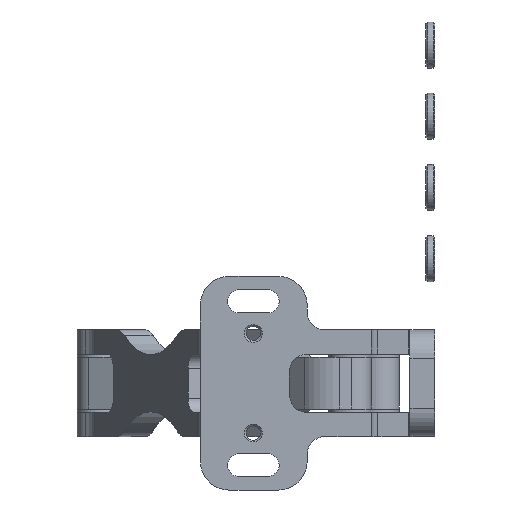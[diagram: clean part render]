
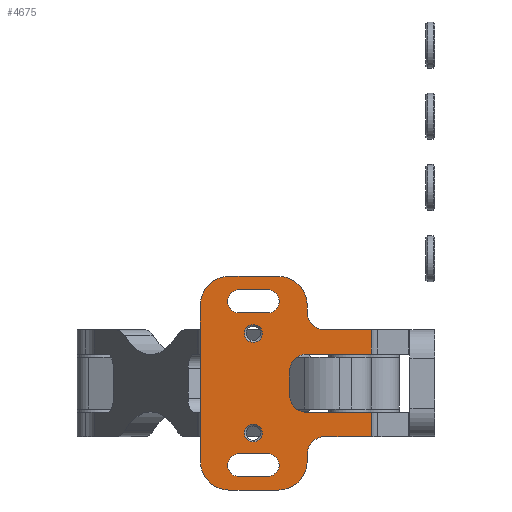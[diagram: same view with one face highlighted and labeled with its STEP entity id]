
A CAD part, front view. The second image highlights one B-rep face of the part: STEP entity #4675.
In plain terms, the highlighted planar face has unit normal (0, -1, 0).
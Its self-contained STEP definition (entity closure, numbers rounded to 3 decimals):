
#105=LINE('',#8855,#432);
#110=LINE('',#8866,#437);
#117=LINE('',#8892,#444);
#120=LINE('',#8904,#447);
#121=LINE('',#8908,#448);
#122=LINE('',#8912,#449);
#123=LINE('',#8916,#450);
#124=LINE('',#8919,#451);
#125=LINE('',#8923,#452);
#126=LINE('',#8925,#453);
#127=LINE('',#8927,#454);
#128=LINE('',#8931,#455);
#129=LINE('',#8935,#456);
#130=LINE('',#8937,#457);
#131=LINE('',#8939,#458);
#132=LINE('',#8943,#459);
#432=VECTOR('',#7369,1000.);
#437=VECTOR('',#7376,1000.);
#444=VECTOR('',#7403,1000.);
#447=VECTOR('',#7414,1000.);
#448=VECTOR('',#7417,1000.);
#449=VECTOR('',#7420,1000.);
#450=VECTOR('',#7423,1000.);
#451=VECTOR('',#7426,1000.);
#452=VECTOR('',#7429,1000.);
#453=VECTOR('',#7430,1000.);
#454=VECTOR('',#7431,1000.);
#455=VECTOR('',#7434,1000.);
#456=VECTOR('',#7437,1000.);
#457=VECTOR('',#7438,1000.);
#458=VECTOR('',#7439,1000.);
#459=VECTOR('',#7442,1000.);
#1277=ORIENTED_EDGE('',*,*,#2384,.T.);
#1278=ORIENTED_EDGE('',*,*,#2385,.T.);
#1279=ORIENTED_EDGE('',*,*,#2386,.F.);
#1280=ORIENTED_EDGE('',*,*,#2387,.F.);
#1281=ORIENTED_EDGE('',*,*,#2388,.F.);
#1282=ORIENTED_EDGE('',*,*,#2389,.F.);
#1283=ORIENTED_EDGE('',*,*,#2390,.F.);
#1284=ORIENTED_EDGE('',*,*,#2391,.F.);
#1285=ORIENTED_EDGE('',*,*,#2392,.F.);
#1286=ORIENTED_EDGE('',*,*,#2393,.F.);
#1287=ORIENTED_EDGE('',*,*,#2374,.T.);
#1288=ORIENTED_EDGE('',*,*,#2381,.T.);
#1289=ORIENTED_EDGE('',*,*,#2371,.T.);
#1290=ORIENTED_EDGE('',*,*,#2368,.T.);
#1291=ORIENTED_EDGE('',*,*,#2394,.T.);
#1292=ORIENTED_EDGE('',*,*,#2395,.T.);
#1293=ORIENTED_EDGE('',*,*,#2396,.F.);
#1294=ORIENTED_EDGE('',*,*,#2397,.T.);
#1295=ORIENTED_EDGE('',*,*,#2398,.F.);
#1296=ORIENTED_EDGE('',*,*,#2399,.T.);
#1297=ORIENTED_EDGE('',*,*,#2400,.F.);
#1298=ORIENTED_EDGE('',*,*,#2401,.T.);
#1299=ORIENTED_EDGE('',*,*,#2402,.F.);
#1300=ORIENTED_EDGE('',*,*,#2403,.T.);
#1301=ORIENTED_EDGE('',*,*,#2404,.F.);
#1302=ORIENTED_EDGE('',*,*,#2405,.T.);
#1303=ORIENTED_EDGE('',*,*,#2406,.F.);
#1304=ORIENTED_EDGE('',*,*,#2407,.T.);
#1305=ORIENTED_EDGE('',*,*,#2408,.T.);
#1306=ORIENTED_EDGE('',*,*,#2363,.F.);
#2363=EDGE_CURVE('',#2962,#2963,#105,.T.);
#2368=EDGE_CURVE('',#2965,#2967,#110,.T.);
#2371=EDGE_CURVE('',#2969,#2965,#3397,.T.);
#2374=EDGE_CURVE('',#2962,#2971,#3399,.T.);
#2381=EDGE_CURVE('',#2971,#2969,#117,.T.);
#2384=EDGE_CURVE('',#2978,#2978,#3402,.T.);
#2385=EDGE_CURVE('',#2979,#2979,#3403,.T.);
#2386=EDGE_CURVE('',#2980,#2981,#3404,.T.);
#2387=EDGE_CURVE('',#2982,#2980,#120,.T.);
#2388=EDGE_CURVE('',#2983,#2982,#3405,.T.);
#2389=EDGE_CURVE('',#2981,#2983,#121,.T.);
#2390=EDGE_CURVE('',#2984,#2985,#3406,.T.);
#2391=EDGE_CURVE('',#2986,#2984,#122,.T.);
#2392=EDGE_CURVE('',#2987,#2986,#3407,.T.);
#2393=EDGE_CURVE('',#2985,#2987,#123,.T.);
#2394=EDGE_CURVE('',#2967,#2988,#3408,.T.);
#2395=EDGE_CURVE('',#2988,#2989,#124,.T.);
#2396=EDGE_CURVE('',#2990,#2989,#3409,.T.);
#2397=EDGE_CURVE('',#2990,#2991,#125,.T.);
#2398=EDGE_CURVE('',#2992,#2991,#126,.T.);
#2399=EDGE_CURVE('',#2992,#2993,#127,.T.);
#2400=EDGE_CURVE('',#2994,#2993,#3410,.T.);
#2401=EDGE_CURVE('',#2994,#2995,#128,.T.);
#2402=EDGE_CURVE('',#2996,#2995,#3411,.T.);
#2403=EDGE_CURVE('',#2996,#2997,#129,.T.);
#2404=EDGE_CURVE('',#2998,#2997,#130,.T.);
#2405=EDGE_CURVE('',#2998,#2999,#131,.T.);
#2406=EDGE_CURVE('',#3000,#2999,#3412,.T.);
#2407=EDGE_CURVE('',#3000,#3001,#132,.T.);
#2408=EDGE_CURVE('',#3001,#2963,#3413,.T.);
#2962=VERTEX_POINT('',#8854);
#2963=VERTEX_POINT('',#8856);
#2965=VERTEX_POINT('',#8861);
#2967=VERTEX_POINT('',#8865);
#2969=VERTEX_POINT('',#8870);
#2971=VERTEX_POINT('',#8877);
#2978=VERTEX_POINT('',#8898);
#2979=VERTEX_POINT('',#8900);
#2980=VERTEX_POINT('',#8902);
#2981=VERTEX_POINT('',#8903);
#2982=VERTEX_POINT('',#8905);
#2983=VERTEX_POINT('',#8907);
#2984=VERTEX_POINT('',#8910);
#2985=VERTEX_POINT('',#8911);
#2986=VERTEX_POINT('',#8913);
#2987=VERTEX_POINT('',#8915);
#2988=VERTEX_POINT('',#8918);
#2989=VERTEX_POINT('',#8920);
#2990=VERTEX_POINT('',#8922);
#2991=VERTEX_POINT('',#8924);
#2992=VERTEX_POINT('',#8926);
#2993=VERTEX_POINT('',#8928);
#2994=VERTEX_POINT('',#8930);
#2995=VERTEX_POINT('',#8932);
#2996=VERTEX_POINT('',#8934);
#2997=VERTEX_POINT('',#8936);
#2998=VERTEX_POINT('',#8938);
#2999=VERTEX_POINT('',#8940);
#3000=VERTEX_POINT('',#8942);
#3001=VERTEX_POINT('',#8944);
#3397=CIRCLE('',#6496,8.);
#3399=CIRCLE('',#6499,8.);
#3402=CIRCLE('',#6505,2.5);
#3403=CIRCLE('',#6506,2.5);
#3404=CIRCLE('',#6507,3.25);
#3405=CIRCLE('',#6508,3.25);
#3406=CIRCLE('',#6509,3.25);
#3407=CIRCLE('',#6510,3.25);
#3408=CIRCLE('',#6511,8.);
#3409=CIRCLE('',#6512,5.);
#3410=CIRCLE('',#6513,5.);
#3411=CIRCLE('',#6514,5.);
#3412=CIRCLE('',#6515,5.);
#3413=CIRCLE('',#6516,8.);
#3740=EDGE_LOOP('',(#1277));
#3741=EDGE_LOOP('',(#1278));
#3742=EDGE_LOOP('',(#1279,#1280,#1281,#1282));
#3743=EDGE_LOOP('',(#1283,#1284,#1285,#1286));
#3744=EDGE_LOOP('',(#1287,#1288,#1289,#1290,#1291,#1292,#1293,#1294,#1295,
#1296,#1297,#1298,#1299,#1300,#1301,#1302,#1303,#1304,#1305,#1306));
#4173=FACE_BOUND('',#3740,.T.);
#4174=FACE_BOUND('',#3741,.T.);
#4175=FACE_BOUND('',#3742,.T.);
#4176=FACE_BOUND('',#3743,.T.);
#4177=FACE_BOUND('',#3744,.T.);
#4502=PLANE('',#6504);
#4675=ADVANCED_FACE('',(#4173,#4174,#4175,#4176,#4177),#4502,.F.);
#6496=AXIS2_PLACEMENT_3D('',#8872,#7382,#7383);
#6499=AXIS2_PLACEMENT_3D('',#8878,#7389,#7390);
#6504=AXIS2_PLACEMENT_3D('',#8896,#7406,#7407);
#6505=AXIS2_PLACEMENT_3D('',#8897,#7408,#7409);
#6506=AXIS2_PLACEMENT_3D('',#8899,#7410,#7411);
#6507=AXIS2_PLACEMENT_3D('',#8901,#7412,#7413);
#6508=AXIS2_PLACEMENT_3D('',#8906,#7415,#7416);
#6509=AXIS2_PLACEMENT_3D('',#8909,#7418,#7419);
#6510=AXIS2_PLACEMENT_3D('',#8914,#7421,#7422);
#6511=AXIS2_PLACEMENT_3D('',#8917,#7424,#7425);
#6512=AXIS2_PLACEMENT_3D('',#8921,#7427,#7428);
#6513=AXIS2_PLACEMENT_3D('',#8929,#7432,#7433);
#6514=AXIS2_PLACEMENT_3D('',#8933,#7435,#7436);
#6515=AXIS2_PLACEMENT_3D('',#8941,#7440,#7441);
#6516=AXIS2_PLACEMENT_3D('',#8945,#7443,#7444);
#7369=DIRECTION('',(1.,0.,0.));
#7376=DIRECTION('',(1.,0.,0.));
#7382=DIRECTION('',(0.,-1.,0.));
#7383=DIRECTION('',(1.,0.,0.));
#7389=DIRECTION('',(0.,-1.,0.));
#7390=DIRECTION('',(1.,0.,0.));
#7403=DIRECTION('',(0.,0.,-1.));
#7406=DIRECTION('',(0.,1.,0.));
#7407=DIRECTION('',(0.,0.,1.));
#7408=DIRECTION('',(0.,1.,0.));
#7409=DIRECTION('',(0.,0.,1.));
#7410=DIRECTION('',(0.,1.,0.));
#7411=DIRECTION('',(0.,0.,1.));
#7412=DIRECTION('',(0.,-1.,0.));
#7413=DIRECTION('',(0.,0.,-1.));
#7414=DIRECTION('',(-1.,0.,0.));
#7415=DIRECTION('',(0.,-1.,0.));
#7416=DIRECTION('',(0.,0.,-1.));
#7417=DIRECTION('',(1.,0.,0.));
#7418=DIRECTION('',(0.,-1.,0.));
#7419=DIRECTION('',(0.,0.,-1.));
#7420=DIRECTION('',(-1.,0.,0.));
#7421=DIRECTION('',(0.,-1.,0.));
#7422=DIRECTION('',(0.,0.,-1.));
#7423=DIRECTION('',(1.,0.,0.));
#7424=DIRECTION('',(0.,-1.,0.));
#7425=DIRECTION('',(1.,0.,0.));
#7426=DIRECTION('',(0.,0.,1.));
#7427=DIRECTION('',(0.,-1.,0.));
#7428=DIRECTION('',(1.,0.,0.));
#7429=DIRECTION('',(1.,0.,0.));
#7430=DIRECTION('',(0.,0.,-1.));
#7431=DIRECTION('',(-1.,0.,0.));
#7432=DIRECTION('',(0.,-1.,0.));
#7433=DIRECTION('',(1.,0.,0.));
#7434=DIRECTION('',(0.,0.,1.));
#7435=DIRECTION('',(0.,-1.,0.));
#7436=DIRECTION('',(1.,0.,0.));
#7437=DIRECTION('',(1.,0.,0.));
#7438=DIRECTION('',(0.,0.,-1.));
#7439=DIRECTION('',(-1.,0.,0.));
#7440=DIRECTION('',(0.,-1.,0.));
#7441=DIRECTION('',(1.,0.,0.));
#7442=DIRECTION('',(0.,0.,1.));
#7443=DIRECTION('',(0.,-1.,0.));
#7444=DIRECTION('',(1.,0.,0.));
#8854=CARTESIAN_POINT('',(-57.88,-14.,30.));
#8855=CARTESIAN_POINT('',(-65.88,-14.,30.));
#8856=CARTESIAN_POINT('',(-43.88,-14.,30.));
#8861=CARTESIAN_POINT('',(-57.88,-14.,-30.));
#8865=CARTESIAN_POINT('',(-43.88,-14.,-30.));
#8866=CARTESIAN_POINT('',(-65.88,-14.,-30.));
#8870=CARTESIAN_POINT('',(-65.88,-14.,-22.));
#8872=CARTESIAN_POINT('',(-57.88,-14.,-22.));
#8877=CARTESIAN_POINT('',(-65.88,-14.,22.));
#8878=CARTESIAN_POINT('',(-57.88,-14.,22.));
#8892=CARTESIAN_POINT('',(-65.88,-14.,30.));
#8896=CARTESIAN_POINT('',(-65.88,-14.,30.));
#8897=CARTESIAN_POINT('',(-51.,-14.,14.));
#8898=CARTESIAN_POINT('',(-51.,-14.,16.5));
#8899=CARTESIAN_POINT('',(-51.,-14.,-14.));
#8900=CARTESIAN_POINT('',(-51.,-14.,-11.5));
#8901=CARTESIAN_POINT('',(-55.,-14.,-23.));
#8902=CARTESIAN_POINT('',(-55.,-14.,-19.75));
#8903=CARTESIAN_POINT('',(-55.,-14.,-26.25));
#8904=CARTESIAN_POINT('',(-47.,-14.,-19.75));
#8905=CARTESIAN_POINT('',(-47.,-14.,-19.75));
#8906=CARTESIAN_POINT('',(-47.,-14.,-23.));
#8907=CARTESIAN_POINT('',(-47.,-14.,-26.25));
#8908=CARTESIAN_POINT('',(-55.,-14.,-26.25));
#8909=CARTESIAN_POINT('',(-55.,-14.,23.));
#8910=CARTESIAN_POINT('',(-55.,-14.,26.25));
#8911=CARTESIAN_POINT('',(-55.,-14.,19.75));
#8912=CARTESIAN_POINT('',(-47.,-14.,26.25));
#8913=CARTESIAN_POINT('',(-47.,-14.,26.25));
#8914=CARTESIAN_POINT('',(-47.,-14.,23.));
#8915=CARTESIAN_POINT('',(-47.,-14.,19.75));
#8916=CARTESIAN_POINT('',(-55.,-14.,19.75));
#8917=CARTESIAN_POINT('',(-43.88,-14.,-22.));
#8918=CARTESIAN_POINT('',(-35.88,-14.,-22.));
#8919=CARTESIAN_POINT('',(-35.88,-14.,-22.));
#8920=CARTESIAN_POINT('',(-35.88,-14.,-20.));
#8921=CARTESIAN_POINT('',(-30.88,-14.,-20.));
#8922=CARTESIAN_POINT('',(-30.88,-14.,-15.));
#8923=CARTESIAN_POINT('',(-30.88,-14.,-15.));
#8924=CARTESIAN_POINT('',(-17.88,-14.,-15.));
#8925=CARTESIAN_POINT('',(-17.88,-14.,30.));
#8926=CARTESIAN_POINT('',(-17.88,-14.,-8.2));
#8927=CARTESIAN_POINT('',(-17.88,-14.,-8.2));
#8928=CARTESIAN_POINT('',(-35.88,-14.,-8.2));
#8929=CARTESIAN_POINT('',(-35.88,-14.,-3.2));
#8930=CARTESIAN_POINT('',(-40.88,-14.,-3.2));
#8931=CARTESIAN_POINT('',(-40.88,-14.,-3.2));
#8932=CARTESIAN_POINT('',(-40.88,-14.,3.2));
#8933=CARTESIAN_POINT('',(-35.88,-14.,3.2));
#8934=CARTESIAN_POINT('',(-35.88,-14.,8.2));
#8935=CARTESIAN_POINT('',(-35.88,-14.,8.2));
#8936=CARTESIAN_POINT('',(-17.88,-14.,8.2));
#8937=CARTESIAN_POINT('',(-17.88,-14.,30.));
#8938=CARTESIAN_POINT('',(-17.88,-14.,15.));
#8939=CARTESIAN_POINT('',(-17.88,-14.,15.));
#8940=CARTESIAN_POINT('',(-30.88,-14.,15.));
#8941=CARTESIAN_POINT('',(-30.88,-14.,20.));
#8942=CARTESIAN_POINT('',(-35.88,-14.,20.));
#8943=CARTESIAN_POINT('',(-35.88,-14.,20.));
#8944=CARTESIAN_POINT('',(-35.88,-14.,22.));
#8945=CARTESIAN_POINT('',(-43.88,-14.,22.));
